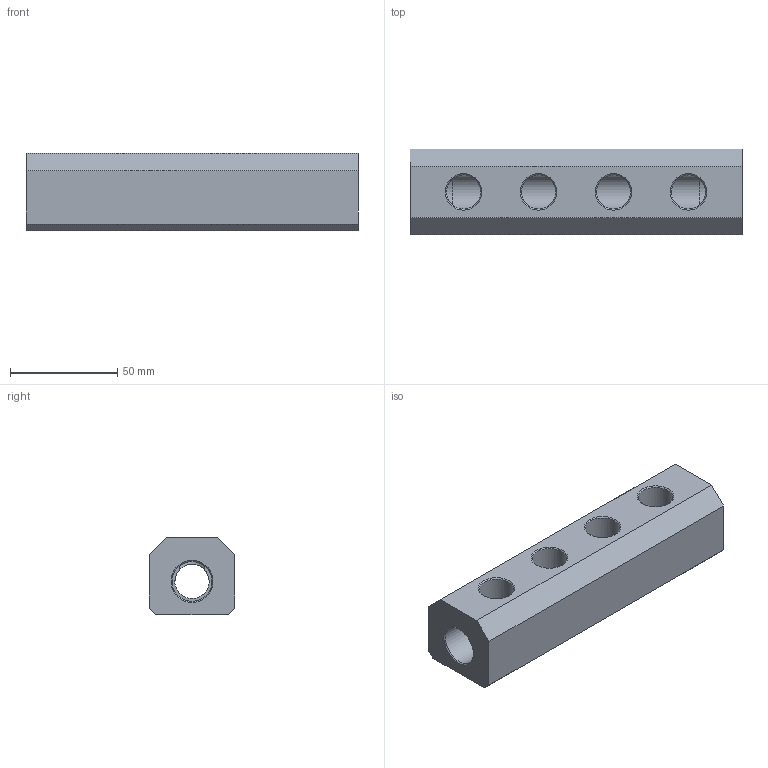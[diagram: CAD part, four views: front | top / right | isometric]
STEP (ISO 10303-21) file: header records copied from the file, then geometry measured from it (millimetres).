
FILE_DESCRIPTION(/* description */ (''),/* implementation_level */ '2;1');
FILE_NAME(/* name */ '60107000002.stp',/* time_stamp */ '2022-06-14T14:52:03+08:00',/* author */ (''),/* organization */ (''),/* preprocessor_version */ 'ST-DEVELOPER v11',/* originating_system */ 'SIEMENS PLM Software NX 7.5',/* authorisation */ '');
FILE_SCHEMA (('CONFIG_CONTROL_DESIGN'));
Length unit declared in the file: millimetre
Products named in the file (1): Admi5148g0x9
Bounding box: 155 x 40 x 36 mm (x, y, z)
Volume: 166931.8 mm3; surface area: 33112.9 mm2
Topology: 1 solids, 1 shells, 27 faces, 81 edges, 52 vertices
Faces by surface type: plane 12, cylinder 9, cone 6
Full cylindrical faces by diameter (mm): 16 x5, 18.6 x2
Entity records: 856 total; most frequent: CARTESIAN_POINT 144, DIRECTION 132, ORIENTED_EDGE 112, EDGE_CURVE 56, AXIS2_PLACEMENT_3D 52, EDGE_LOOP 46, VERTEX_POINT 44, FACE_BOUND 37
